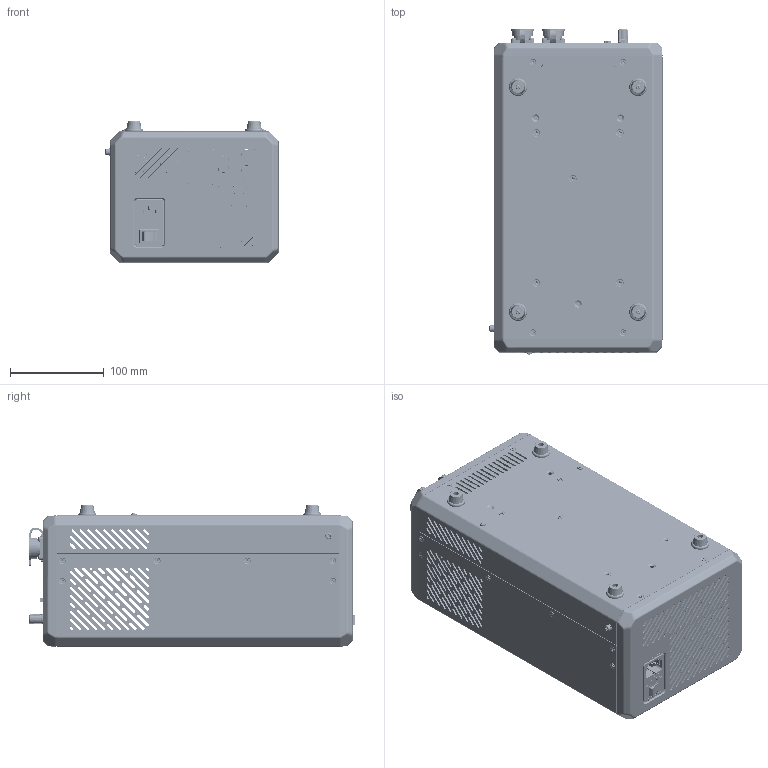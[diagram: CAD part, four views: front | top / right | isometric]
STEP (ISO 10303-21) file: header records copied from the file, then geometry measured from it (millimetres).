
FILE_DESCRIPTION((''),'2;1');
FILE_NAME('MV-LE100-500W24-1ED','2023-07-31T19:34:10',('jiabaodong'),(''),'CREO PARAMETRIC BY PTC INC, 2020044','CREO PARAMETRIC BY PTC INC, 2020044','');
FILE_SCHEMA(('CONFIG_CONTROL_DESIGN','SHAPE_APPEARANCE_LAYERS_GROUPS'));
Products named in the file (1): MV-LE100-500W24-1ED
Bounding box: 184.4 x 347.61 x 150.8 mm (x, y, z)
Volume: 284265.5 mm3; surface area: 586212.4 mm2
Topology: 27 solids, 41 shells, 10465 faces, 28089 edges, 17829 vertices
Faces by surface type: plane 6729, cylinder 2262, cone 924, bspline 224, torus 198, sphere 100, extrusion 28
Entity records: 360107 total; most frequent: CARTESIAN_POINT 100328, ORIENTED_EDGE 55929, DIRECTION 50868, EDGE_CURVE 28031, VECTOR 19902, LINE 19874, VERTEX_POINT 17827, AXIS2_PLACEMENT_3D 15483
